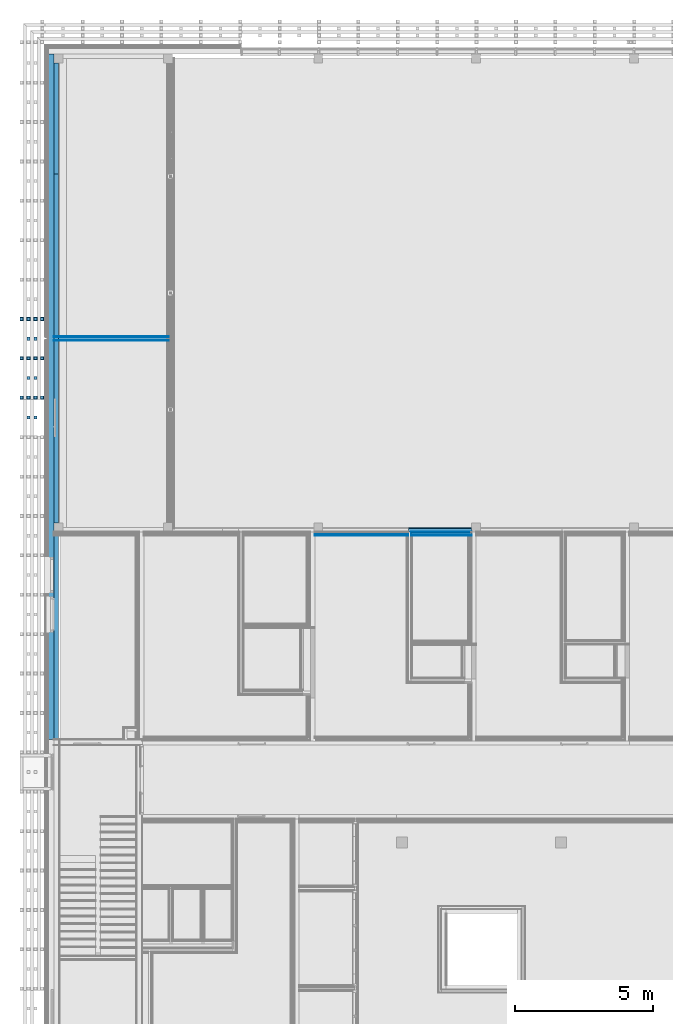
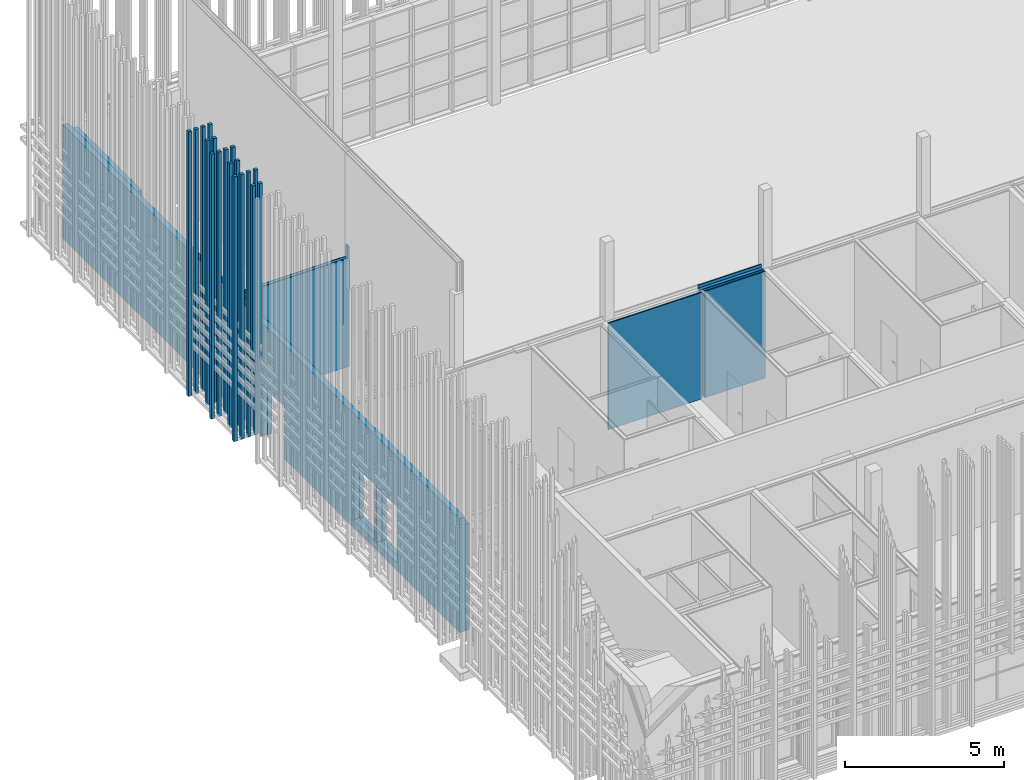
# One storey, part 224 of 260: 17 building element parts, 6 discrete accessories, 3 openings, 4 elements without a shape of their own.
"""IFC2X3 building model written with IfcOpenShell, lengths in millimetres."""

from ifc_helpers import new_model, entity, si_unit, converted_unit, derived_unit, money_unit, direction, frame, origin_with_axes, place, context, subcontext, project, spatial, faceted_brep, material, material_list, type_object, element, aggregate, save


model = new_model("IFC2X3")

# Units and contexts
model_context = context("Model", 3, precision=0.01, world=origin_with_axes(), true_north=direction((0.0, 1.0)))
body_context = subcontext(model_context, "Body", "Model", "MODEL_VIEW")
ifc_project = project(units=[si_unit("LENGTHUNIT", "METRE", prefix="MILLI"), si_unit("AREAUNIT", "SQUARE_METRE"), si_unit("VOLUMEUNIT", "CUBIC_METRE"), converted_unit("PLANEANGLEUNIT", "DEGREE", entity("IfcPlaneAngleMeasure", 0.0174532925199), si_unit("PLANEANGLEUNIT", "RADIAN"), dimensions=[0, 0, 0, 0, 0, 0, 0]), money_unit("EUR"), converted_unit("TIMEUNIT", "Year", entity("IfcTimeMeasure", 31556926.0), si_unit("TIMEUNIT", "SECOND"), dimensions=[0, 0, 1, 0, 0, 0, 0]), si_unit("MASSUNIT", "GRAM", prefix="KILO"), si_unit("THERMODYNAMICTEMPERATUREUNIT", "DEGREE_CELSIUS"), si_unit("LUMINOUSINTENSITYUNIT", "LUMEN"), si_unit("ENERGYUNIT", "JOULE", prefix="MEGA"), derived_unit("THERMALCONDUCTANCEUNIT", [(si_unit("POWERUNIT", "WATT"), 1), (si_unit("LENGTHUNIT", "METRE"), -1), (si_unit("THERMODYNAMICTEMPERATUREUNIT", "KELVIN"), -1)]), derived_unit("SPECIFICHEATCAPACITYUNIT", [(si_unit("ENERGYUNIT", "JOULE"), 1), (si_unit("MASSUNIT", "GRAM", prefix="KILO"), -1), (si_unit("THERMODYNAMICTEMPERATUREUNIT", "KELVIN"), -1)]), derived_unit("MASSDENSITYUNIT", [(si_unit("MASSUNIT", "GRAM", prefix="KILO"), 1), (si_unit("VOLUMEUNIT", "CUBIC_METRE"), -1)])], contexts=[model_context])

# Site, building, storey
site_placement = place(None, origin_with_axes())
site = spatial("IfcSite", under=ifc_project, at=site_placement, Name="Kolde pst 67a", CompositionType="ELEMENT")
building_placement = place(site_placement, origin_with_axes())
building = spatial("IfcBuilding", under=site, at=building_placement, Name="Riigigümnaasium", CompositionType="ELEMENT")
storey_placement = place(building_placement, origin_with_axes())
storey = spatial("IfcBuildingStorey", under=building, at=storey_placement, Name="1. korrus", CompositionType="ELEMENT", Elevation=0.0)

# Discrete accessories
ifc_material_1 = material(Name="_VÄLISVIIMISTLUS - sõrmjätkatud puitprussid 120x115mm, liitekohad vähemärgatavad, Platowood sõrmjätkatud kuusk või samaväärne; eeltöödeldud tuletõkkevõõbaga, tuletundlikkus B-s1, d0, Woodsafe Exterior WFX™ või samaväärne; kinnitused vastavalt EK osale")
ifc_material_list_1 = material_list([ifc_material_1, ifc_material_1, ifc_material_1, ifc_material_1])
discrete_accessory_type_1 = type_object("IfcDiscreteAccessoryType", Name="120 4-ne vertikaalne 870 x 115")
for number, where, z_axis, x_axis in (
    (1, (-310.003213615, 74832.222277, 280.0), (0.0, 0.0, 1.0), (0.999999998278, -5.86859191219e-05, 0.0)),
    (2, (-310.003213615, 73402.2222771, 280.0), (0.0, 0.0, 1.0), (0.999999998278, -5.86859191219e-05, 0.0)),
    (3, (-310.003213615, 71972.2222771, 280.0), (0.0, 0.0, 1.0), (0.999999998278, -5.86859191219e-05, 0.0)),
):
    element("IfcDiscreteAccessory", number, at=place(storey_placement, frame(where, z_axis=z_axis, x_axis=x_axis)), inside=storey, type_object=discrete_accessory_type_1, material=ifc_material_list_1, Name="Päikesevarjestus", context=body_context, shape_type="Brep", body=[
        faceted_brep([(-133.0, -70.0, 0.0), (-13.0, -70.0, 0.0), (-13.0, -70.0, 10140.0), (-133.0, -70.0, 10140.0), (-133.0, 45.0, 0.0), (-13.0, 45.0, 0.0), (-13.0, 45.0, 10140.0), (-133.0, 45.0, 10140.0)], [[[0, 1, 2, 3]], [[0, 4, 5, 1]], [[1, 5, 6, 2]], [[3, 2, 6, 7]], [[4, 0, 3, 7]], [[5, 4, 7, 6]]]),
        faceted_brep([(-383.0, -70.0, 0.0), (-263.0, -70.0, 0.0), (-263.0, -70.0, 10140.0), (-383.0, -70.0, 10140.0), (-383.0, 45.0, 0.0), (-263.0, 45.0, 0.0), (-263.0, 45.0, 10140.0), (-383.0, 45.0, 10140.0)], [[[0, 1, 2, 3]], [[0, 4, 5, 1]], [[1, 5, 6, 2]], [[3, 2, 6, 7]], [[4, 0, 3, 7]], [[5, 4, 7, 6]]]),
        faceted_brep([(-633.0, -70.0, 0.0), (-513.0, -70.0, 0.0), (-513.0, -70.0, 10140.0), (-633.0, -70.0, 10140.0), (-633.0, 45.0, 0.0), (-513.0, 45.0, 0.0), (-513.0, 45.0, 10140.0), (-633.0, 45.0, 10140.0)], [[[0, 1, 2, 3]], [[0, 4, 5, 1]], [[1, 5, 6, 2]], [[3, 2, 6, 7]], [[4, 0, 3, 7]], [[5, 4, 7, 6]]]),
        faceted_brep([(-883.0, -70.0, 0.0), (-763.0, -70.0, 0.0), (-763.0, -70.0, 10140.0), (-883.0, -70.0, 10140.0), (-883.0, 45.0, 0.0), (-763.0, 45.0, 0.0), (-763.0, 45.0, 10140.0), (-883.0, 45.0, 10140.0)], [[[0, 1, 2, 3]], [[0, 4, 5, 1]], [[1, 5, 6, 2]], [[3, 2, 6, 7]], [[4, 0, 3, 7]], [[5, 4, 7, 6]]]),
    ])
ifc_material_list_2 = material_list([ifc_material_1, ifc_material_1])
discrete_accessory_type_2 = type_object("IfcDiscreteAccessoryType", Name="1+paiksekaitse 3 370 x 115")
discrete_accessory_1_placement = place(storey_placement, frame((-1290.00042497, 74044.758805, 280.0), z_axis=(0.0, 0.0, 1.0), x_axis=(1.0, 0.0, 0.0)))
element("IfcDiscreteAccessory", 4, at=discrete_accessory_1_placement, inside=storey, type_object=discrete_accessory_type_2, material=ifc_material_list_2, Name="Päikesevarjestus", context=body_context, shape_type="Brep", body=[
    faceted_brep([(467.0, 117.5, 0.0), (347.0, 117.5, 0.0), (347.0, 117.5, 10140.0), (467.0, 117.5, 10140.0), (467.0, 2.5, 0.0), (347.0, 2.5, 0.0), (347.0, 2.5, 10140.0), (467.0, 2.5, 10140.0)], [[[0, 1, 2, 3]], [[0, 4, 5, 1]], [[1, 5, 6, 2]], [[3, 2, 6, 7]], [[4, 0, 3, 7]], [[5, 4, 7, 6]]]),
    faceted_brep([(717.0, 117.5, 0.0), (597.0, 117.5, 0.0), (597.0, 117.5, 10140.0), (717.0, 117.5, 10140.0), (717.0, 2.5, 0.0), (597.0, 2.50000000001, 0.0), (597.0, 2.50000000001, 10140.0), (717.0, 2.5, 10140.0)], [[[0, 1, 2, 3]], [[0, 4, 5, 1]], [[1, 5, 6, 2]], [[3, 2, 6, 7]], [[4, 0, 3, 7]], [[5, 4, 7, 6]]]),
])
discrete_accessory_2_placement = place(storey_placement, frame((-1290.00042497, 71184.758805, 3748.9472294), z_axis=(0.0, 0.0, 1.0), x_axis=(1.0, 0.0, 0.0)))
element("IfcDiscreteAccessory", 5, at=discrete_accessory_2_placement, inside=storey, type_object=discrete_accessory_type_2, material=ifc_material_list_2, Name="Päikesevarjestus", context=body_context, shape_type="Brep", body=[
    faceted_brep([(467.0, 117.5, 0.0), (347.0, 117.5, 0.0), (347.0, 117.5, 6671.0527706), (467.0, 117.5, 6671.0527706), (467.0, 2.5, 0.0), (347.0, 2.5, 0.0), (347.0, 2.5, 6671.0527706), (467.0, 2.5, 6671.0527706)], [[[0, 1, 2, 3]], [[0, 4, 5, 1]], [[1, 5, 6, 2]], [[3, 2, 6, 7]], [[4, 0, 3, 7]], [[5, 4, 7, 6]]]),
    faceted_brep([(717.0, 117.5, 0.0), (597.0, 117.5, 0.0), (597.0, 117.5, 6671.0527706), (717.0, 117.5, 6671.0527706), (717.0, 2.5, 0.0), (597.0, 2.50000000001, 0.0), (597.0, 2.50000000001, 6671.0527706), (717.0, 2.5, 6671.0527706)], [[[0, 1, 2, 3]], [[0, 4, 5, 1]], [[1, 5, 6, 2]], [[3, 2, 6, 7]], [[4, 0, 3, 7]], [[5, 4, 7, 6]]]),
])
discrete_accessory_3_placement = place(storey_placement, frame((-1290.00042497, 72614.758805, 280.0), z_axis=(0.0, 0.0, 1.0), x_axis=(1.0, 0.0, 0.0)))
element("IfcDiscreteAccessory", 6, at=discrete_accessory_3_placement, inside=storey, type_object=discrete_accessory_type_2, material=ifc_material_list_2, Name="Päikesevarjestus", context=body_context, shape_type="Brep", body=[
    faceted_brep([(467.0, 117.5, 0.0), (347.0, 117.5, 0.0), (347.0, 117.5, 10140.0), (467.0, 117.5, 10140.0), (467.0, 2.5, 0.0), (347.0, 2.5, 0.0), (347.0, 2.5, 10140.0), (467.0, 2.5, 10140.0)], [[[0, 1, 2, 3]], [[0, 4, 5, 1]], [[1, 5, 6, 2]], [[3, 2, 6, 7]], [[4, 0, 3, 7]], [[5, 4, 7, 6]]]),
    faceted_brep([(717.0, 117.5, 0.0), (597.0, 117.5, 0.0), (597.0, 117.5, 10140.0), (717.0, 117.5, 10140.0), (717.0, 2.5, 0.0), (597.0, 2.50000000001, 0.0), (597.0, 2.50000000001, 10140.0), (717.0, 2.5, 10140.0)], [[[0, 1, 2, 3]], [[0, 4, 5, 1]], [[1, 5, 6, 2]], [[3, 2, 6, 7]], [[4, 0, 3, 7]], [[5, 4, 7, 6]]]),
])

# Wall, openings, building element parts
wall_type_1 = type_object("IfcWallType", Name="VS-CLT-16/1_soojust 200+laudis 472", PredefinedType="NOTDEFINED")
wall_1_placement = place(storey_placement, frame((40.0563582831, 84439.9999608, 100.0), z_axis=(0.0, 0.0, 1.0), x_axis=(0.0, -1.0, 0.0)))
wall_1 = element("IfcWall", 7, at=wall_1_placement, inside=storey, type_object=wall_type_1, Name="Välissein")
opening_1_placement = place(wall_1_placement, frame((18915.2769208, 0.0, 300.0), z_axis=(0.0, 0.0, 1.0), x_axis=(1.0, 0.0, 0.0)))
element("IfcOpeningElement", 8, at=opening_1_placement, cuts=wall_1, Name="Välisaken", context=body_context, shape_type="Brep", body=[
    faceted_brep([(-655.0, -122.0, 0.0), (-655.0, -122.0, 2150.0), (-655.0, 632.0, 2150.0), (-655.0, 632.0, 0.0), (655.0, -122.0, 0.0), (655.0, -122.0, 2150.0), (655.0, 632.0, 2150.0), (655.0, 632.0, 0.0)], [[[0, 1, 2, 3]], [[0, 4, 5, 1]], [[1, 5, 6, 2]], [[3, 2, 6, 7]], [[4, 0, 3, 7]], [[5, 4, 7, 6]]]),
    faceted_brep([(-655.0, -122.0, 2150.0), (-655.0, -122.0, 0.0), (-655.0, -784.0, 0.0), (-655.0, -784.0, 2150.0), (655.0, -122.0, 2150.0), (655.0, -122.0, 0.0), (655.0, -784.0, 0.0), (655.0, -784.0, 2150.0)], [[[0, 1, 2, 3]], [[0, 4, 5, 1]], [[1, 5, 6, 2]], [[3, 2, 6, 7]], [[4, 0, 3, 7]], [[5, 4, 7, 6]]]),
])
opening_2_placement = place(wall_1_placement, frame((20345.2769206, 0.0, 300.0), z_axis=(0.0, 0.0, 1.0), x_axis=(1.0, 0.0, 0.0)))
element("IfcOpeningElement", 9, at=opening_2_placement, cuts=wall_1, Name="Välisaken", context=body_context, shape_type="Brep", body=[
    faceted_brep([(655.0, 632.0, 0.0), (655.0, 632.0, 2150.0), (655.0, -122.0, 2150.0), (655.0, -122.0, 0.0), (-655.0, 632.0, 0.0), (-655.0, 632.0, 2150.0), (-655.0, -122.0, 2150.0), (-655.0, -122.0, 0.0)], [[[0, 1, 2, 3]], [[0, 4, 5, 1]], [[1, 5, 6, 2]], [[3, 2, 6, 7]], [[4, 0, 3, 7]], [[5, 4, 7, 6]]]),
    faceted_brep([(655.0, -784.0, 2150.0), (655.0, -784.0, 0.0), (655.0, -122.0, 0.0), (655.0, -122.0, 2150.0), (-655.0, -784.0, 2150.0), (-655.0, -784.0, 0.0), (-655.0, -122.0, 0.0), (-655.0, -122.0, 2150.0)], [[[0, 1, 2, 3]], [[0, 4, 5, 1]], [[1, 5, 6, 2]], [[3, 2, 6, 7]], [[4, 0, 3, 7]], [[5, 4, 7, 6]]]),
])
opening_3_placement = place(wall_1_placement, frame((13197.7776034, 0.0, -100.0), z_axis=(0.0, 0.0, 1.0), x_axis=(1.0, 0.0, 0.0)))
element("IfcOpeningElement", 10, at=opening_3_placement, cuts=wall_1, Name="Kahepoolne välisuks", context=body_context, shape_type="Brep", body=[
    faceted_brep([(700.0, 0.0, 0.0), (700.0, 0.0, 2100.0), (700.0, -784.0, 2100.0), (700.0, -784.0, 0.0), (-700.0, 0.0, 0.0), (-700.0, 0.0, 2100.0), (-700.0, -784.0, 2100.0), (-700.0, -784.0, 0.0)], [[[0, 1, 2, 3]], [[0, 4, 5, 1]], [[1, 5, 6, 2]], [[3, 2, 6, 7]], [[4, 0, 3, 7]], [[5, 4, 7, 6]]]),
    faceted_brep([(700.0, 0.0, 2100.0), (700.0, 0.0, 0.0), (700.0, 632.0, 0.0), (700.0, 632.0, 2100.0), (-700.0, 0.0, 2100.0), (-700.0, 0.0, 0.0), (-700.0, 632.0, 0.0), (-700.0, 632.0, 2100.0)], [[[0, 1, 2, 3]], [[0, 4, 5, 1]], [[1, 5, 6, 2]], [[3, 2, 6, 7]], [[4, 0, 3, 7]], [[5, 4, 7, 6]]]),
])
ifc_material_2 = material(Name="_KANDETARIND - CLT ristkihtliimpuit vastavalt EK osale, CLT paigaldusvuugid teibitakse ROTHOBLAAS teibiga")
building_element_part_1_placement = place(wall_1_placement, origin_with_axes())
building_element_part_1 = element("IfcBuildingElementPart", 11, at=building_element_part_1_placement, material=ifc_material_2, Name="_KANDETARIND - CLT ristkihtliimpuit vastavalt EK osale, CLT paigaldusvuugid teibitakse ROTHOBLAAS teibiga", context=body_context, shape_type="Brep", body=[
    faceted_brep([(320.0, 160.0, 0.0), (320.0, 160.0, 4370.0), (4359.73718418, 160.0, 4370.0), (4359.73718418, 160.0, 4050.0), (17030.0028095, 160.0, 4050.0), (17030.0028095, 160.0, 0.0), (13897.7776034, 160.0, 0.0), (13897.7776034, 160.0, 2000.0), (12497.7776034, 160.0, 2000.0), (12497.7776034, 160.0, 0.0), (320.0, 0.0, 4370.0), (320.0, 0.0, 0.0), (4359.73718418, 0.0, 4370.0), (4359.73718418, 0.0, 4050.0), (16950.0028095, 0.0, 4050.0), (17030.0028095, 0.0, 4050.0), (17030.0028095, 0.0, 0.0), (13897.7776034, 0.0, 0.0), (13897.7776034, 0.0, 2000.0), (12497.7776034, 0.0, 2000.0), (12497.7776034, 0.0, 0.0)], [[[0, 1, 2, 3, 4, 5, 6, 7, 8, 9]], [[10, 1, 0, 11]], [[1, 10, 12, 2]], [[2, 12, 13, 3]], [[14, 15, 4, 3, 13]], [[16, 5, 4, 15]], [[6, 5, 16, 17]], [[17, 18, 7, 6]], [[18, 19, 8, 7]], [[19, 20, 9, 8]], [[11, 0, 9, 20]], [[10, 11, 20, 19, 18, 17, 16, 15, 14, 13, 12]]]),
    faceted_brep([(17350.0028095, 0.0, 4070.0), (17350.0028095, 0.0, 0.0), (24890.0020204, 0.0, 0.0), (24890.0020041, 0.0, 4070.0), (19570.2769208, 0.0, 300.0), (18260.2769208, 0.0, 300.0), (18260.2769208, 0.0, 2450.0), (19570.2769208, 0.0, 2450.0), (21000.2769206, 0.0, 2450.0), (21000.2769206, 0.0, 300.0), (19690.2769206, 0.0, 300.0), (19690.2769206, 0.0, 2450.0), (17350.0028095, 160.0, 4070.0), (17350.0028095, 160.0, 0.0), (24890.0020204, 160.0, 0.0), (24890.0020045, 160.0, 4070.0), (19570.2769208, 160.0, 300.0), (18260.2769208, 160.0, 300.0), (18260.2769208, 160.0, 2450.0), (19570.2769208, 160.0, 2450.0), (21000.2769206, 160.0, 2450.0), (21000.2769206, 160.0, 300.0), (19690.2769206, 160.0, 300.0), (19690.2769206, 160.0, 2450.0)], [[[0, 1, 2, 3], [4, 5, 6, 7], [8, 9, 10, 11]], [[12, 13, 1, 0]], [[1, 13, 14, 2]], [[3, 2, 14, 15]], [[12, 0, 3, 15]], [[16, 17, 5, 4]], [[17, 18, 6, 5]], [[18, 19, 7, 6]], [[19, 16, 4, 7]], [[8, 20, 21, 9]], [[9, 21, 22, 10]], [[10, 22, 23, 11]], [[11, 23, 20, 8]], [[15, 14, 13, 12], [16, 19, 18, 17], [22, 21, 20, 23]]]),
])
ifc_material_3 = material(Name="_SOOJUSTUS - mineraalvill, λD<0,032 W/(mK), kuumtsingitud lehtteras termoroovidega, S350GD+Zn275 vastavalt EN10346, ISOVER EXTREME 32 200mm või samaväärne")
building_element_part_2_placement = place(wall_1_placement, origin_with_axes())
building_element_part_2 = element("IfcBuildingElementPart", 12, at=building_element_part_2_placement, material=ifc_material_3, Name="_SOOJUSTUS - mineraalvill, λD<0,032 W/(mK), kuumtsingitud lehtteras termoroovidega, S350GD+Zn275 vastavalt EN10346, ISOVER EXTREME 32 200mm või samaväärne", context=body_context, shape_type="Brep", body=[
    faceted_brep([(24890.0020041, -0.0999999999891, 4370.0), (17350.0028095, -0.106975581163, 4370.0), (17030.0028095, -0.106975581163, 4370.0), (17030.0028095, 0.0, 4370.0), (0.0, 0.0, 4370.0), (0.0, -200.0, 4370.0), (24890.0020204, -200.0, 4370.0), (24890.0020041, -0.0999999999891, 4350.0), (17350.0028095, -0.106975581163, 4350.0), (17030.0028095, -0.106975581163, 0.0), (17350.0028095, -0.106975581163, 0.0), (17030.0028095, 0.0, 0.0), (13897.7776034, 0.0, 0.0), (13897.7776034, 0.0, 2000.0), (12497.7776034, 0.0, 2000.0), (12497.7776034, 0.0, 0.0), (0.0, 0.0, 0.0), (0.0, -200.0, 0.0), (12497.7776034, -200.0, 0.0), (12497.7776034, -200.0, 2000.0), (13897.7776034, -200.0, 2000.0), (13897.7776034, -200.0, 0.0), (24890.0020204, -200.0, 0.0), (18260.2769208, -200.0, 2450.0), (19570.2769208, -200.0, 2450.0), (19570.2769208, -200.0, 300.0), (18260.2769208, -200.0, 300.0), (21000.2769206, -200.0, 300.0), (19690.2769206, -200.0, 300.0), (19690.2769206, -200.0, 2450.0), (21000.2769206, -200.0, 2450.0), (24890.0020204, 0.0, 0.0), (24890.0020041, 0.0, 4350.0), (17350.0028095, 0.0, 4350.0), (17350.0028095, 0.0, 0.0), (19570.2769208, -122.0, 2450.0), (18260.2769208, -122.0, 2450.0), (19570.2769208, -122.0, 300.0), (18260.2769208, -122.0, 300.0), (21000.2769206, -122.0, 300.0), (19690.2769206, -122.0, 300.0), (19690.2769206, -122.0, 2450.0), (21000.2769206, -122.0, 2450.0), (19570.2769208, 0.0, 2450.0), (18260.2769208, 0.0, 2450.0), (18260.2769208, 0.0, 300.0), (19570.2769208, 0.0, 300.0), (19690.2769206, 0.0, 300.0), (21000.2769206, 0.0, 300.0), (21000.2769206, 0.0, 2450.0), (19690.2769206, 0.0, 2450.0)], [[[0, 1, 2, 3, 4, 5, 6]], [[7, 8, 1, 0]], [[9, 2, 1, 8, 10]], [[9, 11, 3, 2]], [[4, 3, 11, 12, 13, 14, 15, 16]], [[5, 4, 16, 17]], [[18, 19, 20, 21, 22, 6, 5, 17], [23, 24, 25, 26], [27, 28, 29, 30]], [[0, 6, 22, 31, 32, 7]], [[32, 33, 8, 7]], [[10, 8, 33, 34]], [[9, 10, 34, 31, 22, 21, 12, 11]], [[21, 20, 13, 12]], [[20, 19, 14, 13]], [[19, 18, 15, 14]], [[17, 16, 15, 18]], [[35, 24, 23, 36]], [[37, 25, 24, 35]], [[38, 26, 25, 37]], [[36, 23, 26, 38]], [[27, 39, 40, 28]], [[28, 40, 41, 29]], [[29, 41, 42, 30]], [[30, 42, 39, 27]], [[31, 34, 33, 32], [43, 44, 45, 46], [47, 48, 49, 50]], [[43, 35, 36, 44]], [[46, 37, 35, 43]], [[45, 38, 37, 46]], [[44, 36, 38, 45]], [[39, 48, 47, 40]], [[40, 47, 50, 41]], [[41, 50, 49, 42]], [[42, 49, 48, 39]]]),
])
aggregate(wall_1, [building_element_part_1, building_element_part_2])

# Wall, building element parts
wall_type_2 = type_object("IfcWallType", Name="SS-MK-10/3_TTS sein viimistluseta 160", PredefinedType="NOTDEFINED")
wall_2_placement = place(storey_placement, frame((4204.99947298, 74184.9906509, 0.0), z_axis=(0.0, 0.0, 1.0), x_axis=(-1.0, 0.0, 0.0)))
wall_2 = element("IfcWall", 13, at=wall_2_placement, inside=storey, type_object=wall_type_2, Name="Sisesein")
ifc_material_4 = material(Name="_PLAATMATERJAL - tuletõkkekipsplaat, Knauf Red GKF või samaväärne")
building_element_part_3_placement = place(wall_2_placement, origin_with_axes())
building_element_part_3 = element("IfcBuildingElementPart", 14, at=building_element_part_3_placement, material=ifc_material_4, Name="_PLAATMATERJAL - tuletõkkekipsplaat, Knauf Red GKF või samaväärne", context=body_context, shape_type="Brep", body=[
    faceted_brep([(4004.9431147, 145.0, 4150.0), (37.4999691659, 145.0, 4150.0), (37.4999691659, 145.0, 4600.0), (0.0, 145.0, 4600.0), (0.0, 145.0, 0.0), (4165.05009028, 145.0, 0.0), (4165.05009028, 145.0, 100.0), (4004.9431147, 145.0, 100.0), (4004.9431147, 160.0, 4150.0), (37.4999691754, 160.0, 4150.0), (37.4999691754, 160.0, 4600.0), (0.0, 160.0, 4600.0), (0.0, 160.0, 0.0), (4165.05009028, 160.0, 0.0), (4165.05009028, 160.0, 100.0), (4004.9431147, 160.0, 100.0)], [[[0, 1, 2, 3, 4, 5, 6, 7]], [[1, 0, 8, 9]], [[2, 1, 9, 10]], [[2, 10, 11, 3]], [[3, 11, 12, 4]], [[4, 12, 13, 5]], [[13, 14, 6, 5]], [[14, 15, 7, 6]], [[8, 0, 7, 15]], [[9, 8, 15, 14, 13, 12, 11, 10]]]),
])
building_element_part_4_placement = place(wall_2_placement, origin_with_axes())
building_element_part_4 = element("IfcBuildingElementPart", 15, at=building_element_part_4_placement, material=ifc_material_4, Name="_PLAATMATERJAL - tuletõkkekipsplaat, Knauf Red GKF või samaväärne", context=body_context, shape_type="Brep", body=[
    faceted_brep([(4004.9431147, 130.0, 4150.0), (37.4999691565, 130.0, 4150.0), (37.4999691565, 130.0, 4600.0), (0.0, 130.0, 4600.0), (0.0, 130.0, 0.0), (4165.05009028, 130.0, 0.0), (4165.05009028, 130.0, 100.0), (4004.9431147, 130.0, 100.0), (4004.9431147, 145.0, 4150.0), (37.4999691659, 145.0, 4150.0), (37.4999691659, 145.0, 4600.0), (0.0, 145.0, 4600.0), (0.0, 145.0, 0.0), (4165.05009028, 145.0, 0.0), (4165.05009028, 145.0, 100.0), (4004.9431147, 145.0, 100.0)], [[[0, 1, 2, 3, 4, 5, 6, 7]], [[1, 0, 8, 9]], [[2, 1, 9, 10]], [[2, 10, 11, 3]], [[3, 11, 12, 4]], [[4, 12, 13, 5]], [[13, 14, 6, 5]], [[14, 15, 7, 6]], [[8, 0, 7, 15]], [[9, 8, 15, 14, 13, 12, 11, 10]]]),
])
ifc_material_5 = material(Name="_KARKASS - metallkarkass CW 100/50/06 ja UW 100/40/06, samm 600, vahel mineraalvill, helineeldetegur αw = 1.0,  ISOVER ACOUSTIC 100mm või samaväärne")
building_element_part_5_placement = place(wall_2_placement, origin_with_axes())
building_element_part_5 = element("IfcBuildingElementPart", 16, at=building_element_part_5_placement, material=ifc_material_5, Name="_KARKASS - metallkarkass CW 100/50/06 ja UW 100/40/06, samm 600, vahel mineraalvill, helineeldetegur αw = 1.0,  ISOVER ACOUSTIC 100mm või samaväärne", context=body_context, shape_type="Brep", body=[
    faceted_brep([(4004.9431147, 30.0, 4150.0), (37.4999690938, 30.0, 4150.0), (37.4999690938, 30.0, 4600.0), (0.0, 30.0, 4600.0), (0.0, 30.0, 0.0), (4165.05009028, 30.0, 0.0), (4165.05009028, 30.0, 100.0), (4004.9431147, 30.0, 100.0), (4004.9431147, 130.0, 4150.0), (37.4999691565, 130.0, 4150.0), (37.4999691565, 130.0, 4600.0), (0.0, 130.0, 4600.0), (0.0, 130.0, 0.0), (4165.05009028, 130.0, 0.0), (4165.05009028, 130.0, 100.0), (4004.9431147, 130.0, 100.0)], [[[0, 1, 2, 3, 4, 5, 6, 7]], [[1, 0, 8, 9]], [[2, 1, 9, 10]], [[2, 10, 11, 3]], [[3, 11, 12, 4]], [[4, 12, 13, 5]], [[13, 14, 6, 5]], [[14, 15, 7, 6]], [[8, 0, 7, 15]], [[9, 8, 15, 14, 13, 12, 11, 10]]]),
])
building_element_part_6_placement = place(wall_2_placement, origin_with_axes())
building_element_part_6 = element("IfcBuildingElementPart", 17, at=building_element_part_6_placement, material=ifc_material_4, Name="_PLAATMATERJAL - tuletõkkekipsplaat, Knauf Red GKF või samaväärne", context=body_context, shape_type="Brep", body=[
    faceted_brep([(4004.9431147, 15.0, 4150.0), (37.4999690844, 15.0, 4150.0), (37.4999690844, 15.0, 4600.0), (0.0, 15.0, 4600.0), (0.0, 15.0, 0.0), (4165.05009028, 15.0, 0.0), (4165.05009028, 15.0, 100.0), (4004.9431147, 15.0, 100.0), (4004.9431147, 30.0, 4150.0), (37.4999690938, 30.0, 4150.0), (37.4999690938, 30.0, 4600.0), (0.0, 30.0, 4600.0), (0.0, 30.0, 0.0), (4165.05009028, 30.0, 0.0), (4165.05009028, 30.0, 100.0), (4004.9431147, 30.0, 100.0)], [[[0, 1, 2, 3, 4, 5, 6, 7]], [[1, 0, 8, 9]], [[2, 1, 9, 10]], [[2, 10, 11, 3]], [[3, 11, 12, 4]], [[4, 12, 13, 5]], [[13, 14, 6, 5]], [[14, 15, 7, 6]], [[8, 0, 7, 15]], [[9, 8, 15, 14, 13, 12, 11, 10]]]),
])
building_element_part_7_placement = place(wall_2_placement, origin_with_axes())
building_element_part_7 = element("IfcBuildingElementPart", 18, at=building_element_part_7_placement, material=ifc_material_4, Name="_PLAATMATERJAL - tuletõkkekipsplaat, Knauf Red GKF või samaväärne", context=body_context, shape_type="Brep", body=[
    faceted_brep([(4004.9431147, 0.0, 4150.0), (37.4999690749, 0.0, 4150.0), (37.4999690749, 0.0, 4600.0), (0.0, 0.0, 4600.0), (0.0, 0.0, 0.0), (4165.05009028, 0.0, 0.0), (4165.05009028, 0.0, 100.0), (4004.9431147, 0.0, 100.0), (4004.9431147, 15.0, 4150.0), (37.4999690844, 15.0, 4150.0), (37.4999690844, 15.0, 4600.0), (0.0, 15.0, 4600.0), (0.0, 15.0, 0.0), (4165.05009028, 15.0, 0.0), (4165.05009028, 15.0, 100.0), (4004.9431147, 15.0, 100.0)], [[[0, 1, 2, 3, 4, 5, 6, 7]], [[1, 0, 8, 9]], [[2, 1, 9, 10]], [[2, 10, 11, 3]], [[3, 11, 12, 4]], [[4, 12, 13, 5]], [[13, 14, 6, 5]], [[14, 15, 7, 6]], [[8, 0, 7, 15]], [[9, 8, 15, 14, 13, 12, 11, 10]]]),
])
aggregate(wall_2, [building_element_part_3, building_element_part_4, building_element_part_5, building_element_part_6, building_element_part_7])

wall_type_3 = type_object("IfcWallType", Name="SS-CLT-16/1_vill75+krohv 52 dB 300", PredefinedType="NOTDEFINED")
wall_3_placement = place(storey_placement, frame((9506.48821835, 67089.9971514, 0.0), z_axis=(0.0, 0.0, 1.0), x_axis=(1.0, 0.0, 0.0)))
wall_3 = element("IfcWall", 19, at=wall_3_placement, inside=storey, type_object=wall_type_3, Name="Sisesein")
ifc_material_6 = material(Name="_PLAATMATERJAL - OSB3 plaat")
building_element_part_8_placement = place(wall_3_placement, origin_with_axes())
building_element_part_8 = element("IfcBuildingElementPart", 20, at=building_element_part_8_placement, material=ifc_material_6, Name="_PLAATMATERJAL - OSB3 plaat", context=body_context, shape_type="Brep", body=[
    faceted_brep([(0.0, -90.0, 4080.0), (3396.25199663, -90.0, 4080.0), (3396.25199663, -90.0, 0.0), (0.0, -90.0, 0.0), (3396.25199663, -100.0, 4080.0), (0.0, -100.0, 4080.0), (3396.25199663, -100.0, 0.0), (0.0, -100.0, 0.0)], [[[0, 1, 2, 3]], [[4, 1, 0, 5]], [[1, 4, 6, 2]], [[6, 7, 3, 2]], [[5, 0, 3, 7]], [[4, 5, 7, 6]]]),
])
building_element_part_9_placement = place(wall_3_placement, origin_with_axes())
building_element_part_9 = element("IfcBuildingElementPart", 21, at=building_element_part_9_placement, material=ifc_material_4, Name="_PLAATMATERJAL - tuletõkkekipsplaat, Knauf Red GKF või samaväärne", context=body_context, shape_type="Brep", body=[
    faceted_brep([(0.0, -100.0, 4080.0), (3396.25199663, -100.0, 4080.0), (3396.25199663, -100.0, 0.0), (0.0, -100.0, 0.0), (3396.25199663, -115.0, 4080.0), (0.0, -115.0, 4080.0), (3396.25199663, -115.0, 0.0), (0.0, -115.0, 0.0)], [[[0, 1, 2, 3]], [[4, 1, 0, 5]], [[1, 4, 6, 2]], [[6, 7, 3, 2]], [[5, 0, 3, 7]], [[4, 5, 7, 6]]]),
])
building_element_part_10_placement = place(wall_3_placement, origin_with_axes())
building_element_part_10 = element("IfcBuildingElementPart", 22, at=building_element_part_10_placement, material=ifc_material_4, Name="_PLAATMATERJAL - tuletõkkekipsplaat, Knauf Red GKF või samaväärne", context=body_context, shape_type="Brep", body=[
    faceted_brep([(0.0, -115.0, 4080.0), (3396.25199663, -115.0, 4080.0), (3396.25199663, -115.0, 0.0), (0.0, -115.0, 0.0), (3396.25199663, -130.0, 4080.0), (0.0, -130.0, 4080.0), (3396.25199663, -130.0, 0.0), (0.0, -130.0, 0.0)], [[[0, 1, 2, 3]], [[4, 1, 0, 5]], [[1, 4, 6, 2]], [[6, 7, 3, 2]], [[5, 0, 3, 7]], [[4, 5, 7, 6]]]),
])
ifc_material_7 = material(Name="_VIIMISTLUSKIHT - viimistlus vastavalt SA osale")
building_element_part_11_placement = place(wall_3_placement, origin_with_axes())
building_element_part_11 = element("IfcBuildingElementPart", 23, at=building_element_part_11_placement, material=ifc_material_7, Name="_VIIMISTLUSKIHT - viimistlus vastavalt SA osale", context=body_context, shape_type="Brep", body=[
    faceted_brep([(0.0, -130.0, 4080.0), (3396.25199663, -130.0, 4080.0), (3396.25199663, -130.0, 0.0), (0.0, -130.0, 0.0), (3396.25199663, -140.0, 4080.0), (0.0, -140.0, 4080.0), (3396.25199663, -140.0, 0.0), (0.0, -140.0, 0.0)], [[[0, 1, 2, 3]], [[4, 1, 0, 5]], [[1, 4, 6, 2]], [[6, 7, 3, 2]], [[5, 0, 3, 7]], [[4, 5, 7, 6]]]),
])
aggregate(wall_3, [building_element_part_8, building_element_part_9, building_element_part_10, building_element_part_11])

wall_type_4 = type_object("IfcWallType", Name="SS-CLT-16/2_vill75 +plaat 300", PredefinedType="NOTDEFINED")
wall_4_placement = place(storey_placement, frame((12902.740215, 67089.9971514, 0.0), z_axis=(0.0, 0.0, 1.0), x_axis=(1.0, 0.0, 0.0)))
wall_4 = element("IfcWall", 24, at=wall_4_placement, inside=storey, type_object=wall_type_4, Name="Sisesein")
building_element_part_12_placement = place(wall_4_placement, origin_with_axes())
building_element_part_12 = element("IfcBuildingElementPart", 25, at=building_element_part_12_placement, material=ifc_material_2, Name="_KANDETARIND - CLT ristkihtliimpuit vastavalt EK osale, CLT paigaldusvuugid teibitakse ROTHOBLAAS teibiga", context=body_context, shape_type="Brep", body=[
    faceted_brep([(0.0, 119.999594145, 4190.0), (2297.25978502, 119.999594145, 4190.0), (2297.25978502, 160.0, 4190.0), (0.0, 160.0, 4190.0), (2297.25978502, 119.999594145, 4080.0), (0.0, 119.999594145, 4080.0), (2297.25978502, 0.0, 4080.0), (2297.25978502, 0.0, 0.0), (2297.25978502, 160.0, 0.0), (0.0, 160.0, 0.0), (0.0, 0.0, 0.0), (0.0, 0.0, 4080.0)], [[[0, 1, 2, 3]], [[4, 1, 0, 5]], [[4, 6, 7, 8, 2, 1]], [[3, 2, 8, 9]], [[5, 0, 3, 9, 10, 11]], [[6, 4, 5, 11]], [[6, 11, 10, 7]], [[9, 8, 7, 10]]]),
])
ifc_material_8 = material(Name="_ÕHKVAHE")
building_element_part_13_placement = place(wall_4_placement, origin_with_axes())
building_element_part_13 = element("IfcBuildingElementPart", 26, at=building_element_part_13_placement, material=ifc_material_8, Name="_ÕHKVAHE", context=body_context, shape_type="Brep", body=[
    faceted_brep([(100.0, 0.0, 4080.0), (2297.25978502, 0.0, 4080.0), (2297.25978502, 0.0, 0.0), (100.0, 0.0, 0.0), (2297.25978502, -25.0, 4080.0), (100.0, -25.0, 4080.0), (2297.25978502, -25.0, 0.0), (100.0, -25.0, 0.0)], [[[0, 1, 2, 3]], [[4, 1, 0, 5]], [[1, 4, 6, 2]], [[3, 2, 6, 7]], [[5, 0, 3, 7]], [[4, 5, 7, 6]]]),
])
ifc_material_9 = material(Name="_KARKASS - metallkarkass CW 75/50/06 ja UW 75/40/06, samm 600, vahel mineraalvill, helineeldetegur αw = 1.0,  ISOVER ACOUSTIC 75mm või samaväärne")
building_element_part_14_placement = place(wall_4_placement, origin_with_axes())
building_element_part_14 = element("IfcBuildingElementPart", 27, at=building_element_part_14_placement, material=ifc_material_9, Name="_KARKASS - metallkarkass CW 75/50/06 ja UW 75/40/06, samm 600, vahel mineraalvill, helineeldetegur αw = 1.0,  ISOVER ACOUSTIC 75mm või samaväärne", context=body_context, shape_type="Brep", body=[
    faceted_brep([(100.0, -25.0, 4080.0), (2297.25978502, -25.0, 4080.0), (2297.25978502, -25.0, 0.0), (100.0, -25.0, 0.0), (2297.25978502, -100.0, 4080.0), (100.0, -100.0, 4080.0), (2297.25978502, -100.0, 0.0), (100.0, -100.0, 0.0)], [[[0, 1, 2, 3]], [[4, 1, 0, 5]], [[1, 4, 6, 2]], [[3, 2, 6, 7]], [[5, 0, 3, 7]], [[4, 5, 7, 6]]]),
])
building_element_part_15_placement = place(wall_4_placement, origin_with_axes())
building_element_part_15 = element("IfcBuildingElementPart", 28, at=building_element_part_15_placement, material=ifc_material_4, Name="_PLAATMATERJAL - tuletõkkekipsplaat, Knauf Red GKF või samaväärne", context=body_context, shape_type="Brep", body=[
    faceted_brep([(100.0, -100.0, 4080.0), (2297.25978502, -100.0, 4080.0), (2297.25978502, -100.0, 0.0), (100.0, -100.0, 0.0), (2297.25978502, -115.0, 4080.0), (100.0, -115.0, 4080.0), (2297.25978502, -115.0, 0.0), (100.0, -115.0, 0.0)], [[[0, 1, 2, 3]], [[4, 1, 0, 5]], [[1, 4, 6, 2]], [[3, 2, 6, 7]], [[5, 0, 3, 7]], [[4, 5, 7, 6]]]),
])
building_element_part_16_placement = place(wall_4_placement, origin_with_axes())
building_element_part_16 = element("IfcBuildingElementPart", 29, at=building_element_part_16_placement, material=ifc_material_4, Name="_PLAATMATERJAL - tuletõkkekipsplaat, Knauf Red GKF või samaväärne", context=body_context, shape_type="Brep", body=[
    faceted_brep([(100.0, -115.0, 4080.0), (2297.25978502, -115.0, 4080.0), (2297.25978502, -115.0, 0.0), (100.0, -115.0, 0.0), (2297.25978502, -130.0, 4080.0), (100.0, -130.0, 4080.0), (2297.25978502, -130.0, 0.0), (100.0, -130.0, 0.0)], [[[0, 1, 2, 3]], [[4, 1, 0, 5]], [[1, 4, 6, 2]], [[3, 2, 6, 7]], [[5, 0, 3, 7]], [[4, 5, 7, 6]]]),
])
building_element_part_17_placement = place(wall_4_placement, origin_with_axes())
building_element_part_17 = element("IfcBuildingElementPart", 30, at=building_element_part_17_placement, material=ifc_material_7, Name="_VIIMISTLUSKIHT - viimistlus vastavalt SA osale", context=body_context, shape_type="Brep", body=[
    faceted_brep([(125.0, -130.0, 4080.0), (2297.25978502, -130.0, 4080.0), (2297.25978502, -130.0, 0.0), (125.0, -130.0, 0.0), (2297.25978502, -140.0, 4080.0), (125.0, -140.0, 4080.0), (2297.25978502, -140.0, 0.0), (125.0, -140.0, 0.0)], [[[0, 1, 2, 3]], [[4, 1, 0, 5]], [[1, 4, 6, 2]], [[3, 2, 6, 7]], [[5, 0, 3, 7]], [[4, 5, 7, 6]]]),
])
aggregate(wall_4, [building_element_part_12, building_element_part_13, building_element_part_14, building_element_part_15, building_element_part_16, building_element_part_17])

save(model, "model.ifc")
